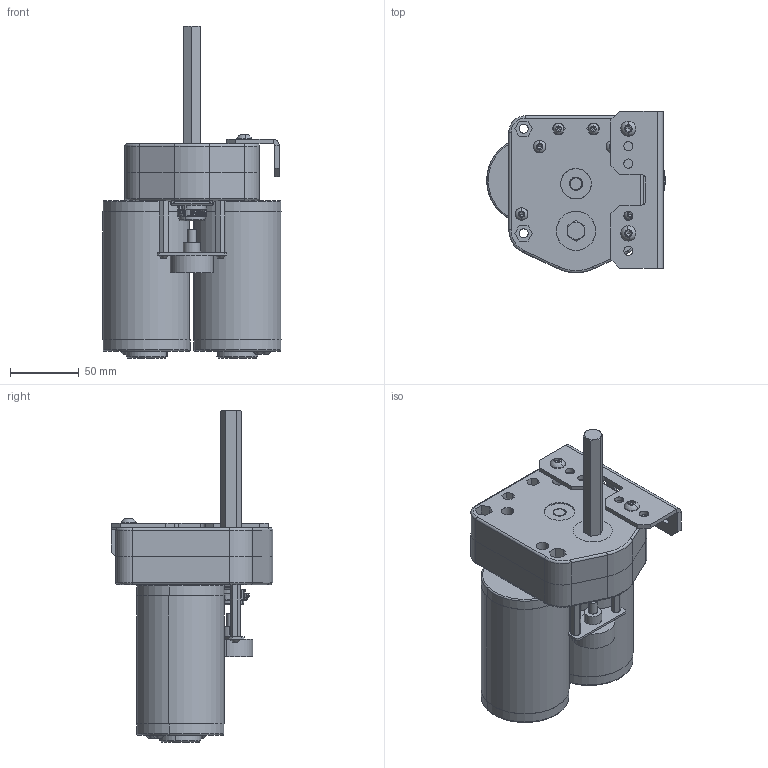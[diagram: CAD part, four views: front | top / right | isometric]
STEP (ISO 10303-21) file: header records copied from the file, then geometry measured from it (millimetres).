
FILE_DESCRIPTION (( 'STEP AP203' ), '1' );
FILE_NAME ('217-2454.20121205.STEP', '2012-12-05T22:18:11', ( 'svradm' ), ( 'Microsoft' ), 'SwSTEP 2.0', 'SolidWorks 2012', '' );
FILE_SCHEMA (( 'CONFIG_CONTROL_DESIGN' ));
Length unit declared in the file: millimetre
Products named in the file (25): 217-2454.20121205; SBS1_SBS1032-0500ZC; 217-2000; NNYXXXX-ZZ_NNY2520-ZC; SBS_SBS2520-1750; 217-2428-005 Rev1; 217-2428-024 Rev2; NUT-832-NYLOCK; 832-1250; SCREW-832-0375; 217-2428-019 Rev1; Grahill Encoder; 217-2733; 217-2734; 217-2708-001_40t; 217-2699-001_14t; 217-2707-001_40t; E4P-X-250-X-S-D-D-X; 217-2731; 217-2454-003 Rev1; 217-2454-002 Rev1; 217-2617-004 Rev1_97431A340; 217-2454-004 Rev1; 217-2454-001 Rev1; 217-2614-001_12t
Assembly tree (38 placements, depth 2):
  217-2454.20121205
    217-2614-001_12t  x2
    217-2454-001 Rev1
    217-2454-004 Rev1
    217-2617-004 Rev1_97431A340
    217-2454-002 Rev1
    217-2454-003 Rev1
    217-2731
    E4P-X-250-X-S-D-D-X
    217-2707-001_40t
    217-2699-001_14t
    217-2708-001_40t
    217-2734
    217-2733  x2
    Grahill Encoder
    217-2428-019 Rev1
    SCREW-832-0375  x4
    832-1250  x2
    NUT-832-NYLOCK  x2
    217-2428-024 Rev2
    217-2428-005 Rev1  x2
    SBS_SBS2520-1750  x2
    NNYXXXX-ZZ_NNY2520-ZC  x2
    217-2000  x2
    SBS1_SBS1032-0500ZC  x4
Bounding box: 129.77 x 117.48 x 241.64 mm (x, y, z)
Volume: 958630.3 mm3; surface area: 234695.2 mm2
Topology: 46 solids, 46 shells, 3188 faces, 8018 edges, 5120 vertices
Faces by surface type: plane 1490, cylinder 1016, cone 271, bspline 223, torus 163, sphere 25
Entity records: 124573 total; most frequent: CARTESIAN_POINT 52924, DIRECTION 14433, ORIENTED_EDGE 14292, EDGE_CURVE 7146, AXIS2_PLACEMENT_3D 5247, VERTEX_POINT 4608, LINE 3939, VECTOR 3939
